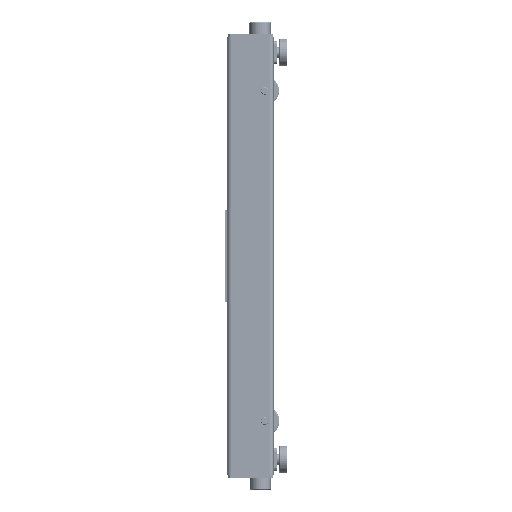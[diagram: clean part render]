
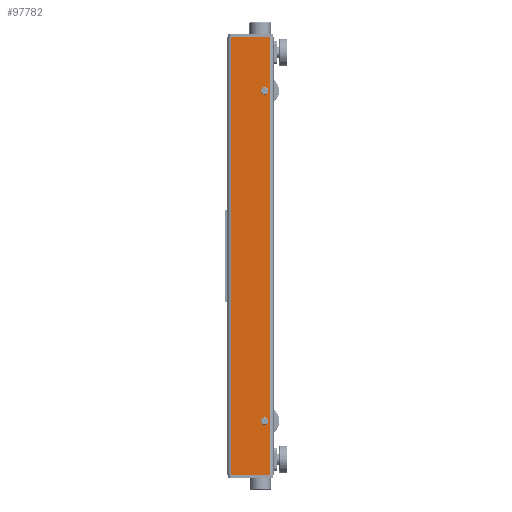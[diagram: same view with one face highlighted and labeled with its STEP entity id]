
A CAD part, left-side view. The second image highlights one B-rep face of the part: STEP entity #97782.
In plain terms, the highlighted planar face has unit normal (-1, 0, 0).
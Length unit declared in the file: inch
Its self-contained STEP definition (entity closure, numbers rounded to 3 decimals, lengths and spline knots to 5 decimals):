
#3083 = EDGE_CURVE ( 'NONE', #11137, #103676, #52032, .T. ) ;
#4225 = CARTESIAN_POINT ( 'NONE',  ( 0., 1.145, 21.5005 ) ) ;
#5181 = CARTESIAN_POINT ( 'NONE',  ( 0., 5.5, 28.5625 ) ) ;
#5807 = AXIS2_PLACEMENT_3D ( 'NONE', #4225, #114120, #31863 ) ;
#6174 = CARTESIAN_POINT ( 'NONE',  ( 0., 1.145, 21.5005 ) ) ;
#7622 = VERTEX_POINT ( 'NONE', #60725 ) ;
#11137 = VERTEX_POINT ( 'NONE', #47889 ) ;
#11779 = DIRECTION ( 'NONE',  ( 0., -1., 0. ) ) ;
#14823 = LINE ( 'NONE', #5181, #89720 ) ;
#15358 = FACE_BOUND ( 'NONE', #78902, .T. ) ;
#15362 = VECTOR ( 'NONE', #90220, 39.37008 ) ;
#16986 = LINE ( 'NONE', #53592, #15362 ) ;
#19022 = AXIS2_PLACEMENT_3D ( 'NONE', #23786, #60398, #97014 ) ;
#23786 = CARTESIAN_POINT ( 'NONE',  ( 0., 0.5, 28.5625 ) ) ;
#24218 = DIRECTION ( 'NONE',  ( 1., 0., 0. ) ) ;
#24373 = FACE_OUTER_BOUND ( 'NONE', #87791, .T. ) ;
#25402 = CIRCLE ( 'NONE', #33038, 0.4925 ) ;
#25705 = ORIENTED_EDGE ( 'NONE', *, *, #114452, .T. ) ;
#26213 = AXIS2_PLACEMENT_3D ( 'NONE', #105630, #77947, #114628 ) ;
#29238 = LINE ( 'NONE', #102461, #42298 ) ;
#29898 = LINE ( 'NONE', #76632, #51997 ) ;
#30629 = VERTEX_POINT ( 'NONE', #39988 ) ;
#31495 = EDGE_CURVE ( 'NONE', #30629, #108344, #29238, .T. ) ;
#31863 = DIRECTION ( 'NONE',  ( 0., 1., 0. ) ) ;
#33038 = AXIS2_PLACEMENT_3D ( 'NONE', #6174, #24218, #42221 ) ;
#39988 = CARTESIAN_POINT ( 'NONE',  ( 0., 5.5, 28.5625 ) ) ;
#42221 = DIRECTION ( 'NONE',  ( 0., 1., 0. ) ) ;
#42298 = VECTOR ( 'NONE', #11779, 39.37008 ) ;
#45755 = ORIENTED_EDGE ( 'NONE', *, *, #75966, .T. ) ;
#46543 = ORIENTED_EDGE ( 'NONE', *, *, #31495, .F. ) ;
#47889 = CARTESIAN_POINT ( 'NONE',  ( 0., 1.6375, -21.5005 ) ) ;
#51392 = FACE_BOUND ( 'NONE', #52941, .T. ) ;
#51997 = VECTOR ( 'NONE', #84478, 39.37008 ) ;
#52002 = CARTESIAN_POINT ( 'NONE',  ( 0., 0.5, -28.5625 ) ) ;
#52032 = CIRCLE ( 'NONE', #96135, 0.4925 ) ;
#52941 = EDGE_LOOP ( 'NONE', ( #110409, #25705 ) ) ;
#53592 = CARTESIAN_POINT ( 'NONE',  ( 0., 0.5, -28.5625 ) ) ;
#54753 = EDGE_CURVE ( 'NONE', #108344, #92306, #29898, .T. ) ;
#55854 = DIRECTION ( 'NONE',  ( 1., 0., 0. ) ) ;
#56495 = VERTEX_POINT ( 'NONE', #109221 ) ;
#57577 = CIRCLE ( 'NONE', #5807, 0.4925 ) ;
#60398 = DIRECTION ( 'NONE',  ( 1., 0., 0. ) ) ;
#60725 = CARTESIAN_POINT ( 'NONE',  ( 0., 5.5, -28.5625 ) ) ;
#63987 = EDGE_CURVE ( 'NONE', #66648, #56495, #25402, .T. ) ;
#66648 = VERTEX_POINT ( 'NONE', #115148 ) ;
#68300 = ORIENTED_EDGE ( 'NONE', *, *, #63987, .T. ) ;
#69759 = CARTESIAN_POINT ( 'NONE',  ( 0., 0.5, 28.5625 ) ) ;
#72077 = CARTESIAN_POINT ( 'NONE',  ( 0., 1.145, -21.5005 ) ) ;
#73852 = DIRECTION ( 'NONE',  ( 0., 1., 0. ) ) ;
#75966 = EDGE_CURVE ( 'NONE', #30629, #7622, #14823, .T. ) ;
#76632 = CARTESIAN_POINT ( 'NONE',  ( 0., 0.5, 28.5625 ) ) ;
#77947 = DIRECTION ( 'NONE',  ( 1., 0., 0. ) ) ;
#78902 = EDGE_LOOP ( 'NONE', ( #68300, #118375 ) ) ;
#78962 = CARTESIAN_POINT ( 'NONE',  ( 0., 0.6525, -21.5005 ) ) ;
#80925 = EDGE_CURVE ( 'NONE', #56495, #66648, #57577, .T. ) ;
#84478 = DIRECTION ( 'NONE',  ( 0., 0., -1. ) ) ;
#85540 = CIRCLE ( 'NONE', #26213, 0.4925 ) ;
#86477 = ORIENTED_EDGE ( 'NONE', *, *, #98117, .T. ) ;
#87791 = EDGE_LOOP ( 'NONE', ( #86477, #117291, #46543, #45755 ) ) ;
#89720 = VECTOR ( 'NONE', #114499, 39.37008 ) ;
#90220 = DIRECTION ( 'NONE',  ( 0., -1., 0. ) ) ;
#92306 = VERTEX_POINT ( 'NONE', #52002 ) ;
#96135 = AXIS2_PLACEMENT_3D ( 'NONE', #72077, #55854, #73852 ) ;
#97014 = DIRECTION ( 'NONE',  ( 0., 1., 0. ) ) ;
#97782 = ADVANCED_FACE ( 'NONE', ( #15358, #51392, #24373 ), #106051, .F. ) ;
#98117 = EDGE_CURVE ( 'NONE', #7622, #92306, #16986, .T. ) ;
#102461 = CARTESIAN_POINT ( 'NONE',  ( 0., 0.5, 28.5625 ) ) ;
#103676 = VERTEX_POINT ( 'NONE', #78962 ) ;
#105630 = CARTESIAN_POINT ( 'NONE',  ( 0., 1.145, -21.5005 ) ) ;
#106051 = PLANE ( 'NONE',  #19022 ) ;
#108344 = VERTEX_POINT ( 'NONE', #69759 ) ;
#109221 = CARTESIAN_POINT ( 'NONE',  ( 0., 0.6525, 21.5005 ) ) ;
#110409 = ORIENTED_EDGE ( 'NONE', *, *, #3083, .T. ) ;
#114120 = DIRECTION ( 'NONE',  ( 1., 0., 0. ) ) ;
#114452 = EDGE_CURVE ( 'NONE', #103676, #11137, #85540, .T. ) ;
#114499 = DIRECTION ( 'NONE',  ( 0., 0., -1. ) ) ;
#114628 = DIRECTION ( 'NONE',  ( 0., 1., 0. ) ) ;
#115148 = CARTESIAN_POINT ( 'NONE',  ( 0., 1.6375, 21.5005 ) ) ;
#117291 = ORIENTED_EDGE ( 'NONE', *, *, #54753, .F. ) ;
#118375 = ORIENTED_EDGE ( 'NONE', *, *, #80925, .T. ) ;
